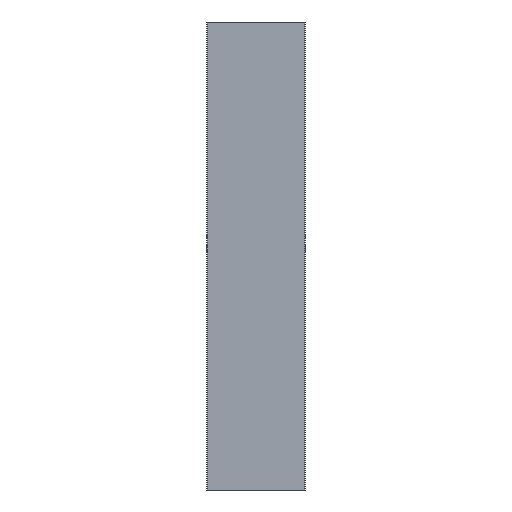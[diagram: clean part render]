
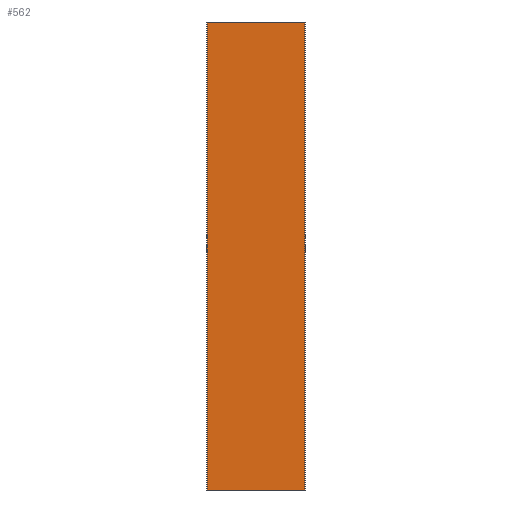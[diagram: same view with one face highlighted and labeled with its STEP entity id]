
A CAD part, left-side view. The second image highlights one B-rep face of the part: STEP entity #562.
In plain terms, the highlighted planar face has unit normal (-1, 0, 0) as drawn and (0, 1, 0) by its records, which use the part's own axes.
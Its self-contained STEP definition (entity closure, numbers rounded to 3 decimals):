
#24 = CARTESIAN_POINT ( 'NONE',  ( 20.9, 0., -100. ) ) ;
#74 = VERTEX_POINT ( 'NONE', #359 ) ;
#77 = DIRECTION ( 'NONE',  ( 0., 0., -1. ) ) ;
#106 = DIRECTION ( 'NONE',  ( 1., 0., 0. ) ) ;
#155 = CARTESIAN_POINT ( 'NONE',  ( 0.1, 0., -100. ) ) ;
#213 = ORIENTED_EDGE ( 'NONE', *, *, #765, .T. ) ;
#226 = AXIS2_PLACEMENT_3D ( 'NONE', #336, #631, #821 ) ;
#260 = LINE ( 'NONE', #155, #281 ) ;
#262 = VECTOR ( 'NONE', #106, 1000. ) ;
#281 = VECTOR ( 'NONE', #545, 1000. ) ;
#306 = ORIENTED_EDGE ( 'NONE', *, *, #540, .T. ) ;
#336 = CARTESIAN_POINT ( 'NONE',  ( 0., 0., -100. ) ) ;
#340 = CARTESIAN_POINT ( 'NONE',  ( 0.1, 0., 0. ) ) ;
#359 = CARTESIAN_POINT ( 'NONE',  ( 20.9, 0., 0. ) ) ;
#433 = CARTESIAN_POINT ( 'NONE',  ( 0.1, 0., -100. ) ) ;
#440 = ORIENTED_EDGE ( 'NONE', *, *, #708, .T. ) ;
#538 = FACE_OUTER_BOUND ( 'NONE', #623, .T. ) ;
#540 = EDGE_CURVE ( 'NONE', #1047, #1012, #260, .T. ) ;
#545 = DIRECTION ( 'NONE',  ( 0., 0., 1. ) ) ;
#562 = ADVANCED_FACE ( 'NONE', ( #538 ), #828, .F. ) ;
#575 = LINE ( 'NONE', #951, #997 ) ;
#619 = EDGE_CURVE ( 'NONE', #1047, #834, #638, .T. ) ;
#623 = EDGE_LOOP ( 'NONE', ( #1205, #306, #213, #440 ) ) ;
#631 = DIRECTION ( 'NONE',  ( 0., -1., 0. ) ) ;
#638 = LINE ( 'NONE', #1016, #710 ) ;
#708 = EDGE_CURVE ( 'NONE', #74, #834, #575, .T. ) ;
#710 = VECTOR ( 'NONE', #1093, 1000. ) ;
#749 = CARTESIAN_POINT ( 'NONE',  ( 0., 0., 0. ) ) ;
#765 = EDGE_CURVE ( 'NONE', #1012, #74, #849, .T. ) ;
#821 = DIRECTION ( 'NONE',  ( 0., 0., -1. ) ) ;
#828 = PLANE ( 'NONE',  #226 ) ;
#834 = VERTEX_POINT ( 'NONE', #24 ) ;
#849 = LINE ( 'NONE', #749, #262 ) ;
#951 = CARTESIAN_POINT ( 'NONE',  ( 20.9, 0., -100. ) ) ;
#997 = VECTOR ( 'NONE', #77, 1000. ) ;
#1012 = VERTEX_POINT ( 'NONE', #340 ) ;
#1016 = CARTESIAN_POINT ( 'NONE',  ( 0., 0., -100. ) ) ;
#1047 = VERTEX_POINT ( 'NONE', #433 ) ;
#1093 = DIRECTION ( 'NONE',  ( 1., 0., 0. ) ) ;
#1205 = ORIENTED_EDGE ( 'NONE', *, *, #619, .F. ) ;
